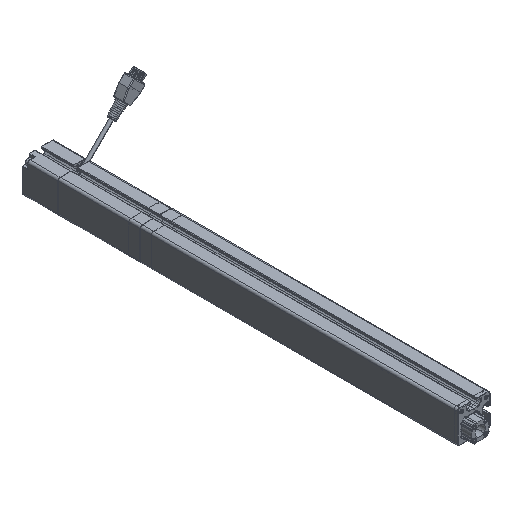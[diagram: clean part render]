
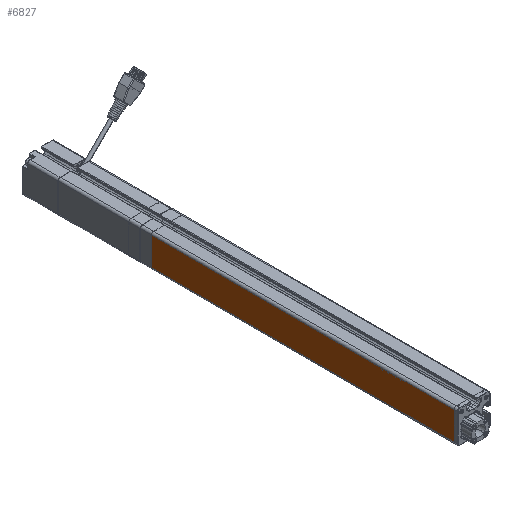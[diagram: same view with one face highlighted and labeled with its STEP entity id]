
A CAD part, isometric view. The second image highlights one B-rep face of the part: STEP entity #6827.
In plain terms, the highlighted planar face has unit normal (-1, 0, 0).
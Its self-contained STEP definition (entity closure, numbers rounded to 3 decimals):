
#2504 = LINE ( 'NONE', #39008, #12276 ) ;
#6827 = ADVANCED_FACE ( 'NONE', ( #44915 ), #45816, .F. ) ;
#6989 = DIRECTION ( 'NONE',  ( 0., 0., -1. ) ) ;
#7872 = LINE ( 'NONE', #69471, #82139 ) ;
#11121 = CARTESIAN_POINT ( 'NONE',  ( -22.5, -19.5, 419. ) ) ;
#12276 = VECTOR ( 'NONE', #18468, 1000. ) ;
#18468 = DIRECTION ( 'NONE',  ( 0., -1., 0. ) ) ;
#19750 = ORIENTED_EDGE ( 'NONE', *, *, #68656, .T. ) ;
#25250 = DIRECTION ( 'NONE',  ( 1., 0., 0. ) ) ;
#30451 = ORIENTED_EDGE ( 'NONE', *, *, #67645, .T. ) ;
#32986 = VECTOR ( 'NONE', #68608, 1000. ) ;
#33056 = LINE ( 'NONE', #88301, #32986 ) ;
#33177 = CARTESIAN_POINT ( 'NONE',  ( -22.5, 19.5, 0. ) ) ;
#39008 = CARTESIAN_POINT ( 'NONE',  ( -22.5, -19.5, 0. ) ) ;
#39789 = EDGE_LOOP ( 'NONE', ( #19750, #59640, #81100, #30451 ) ) ;
#41692 = AXIS2_PLACEMENT_3D ( 'NONE', #11121, #25250, #53109 ) ;
#41726 = CARTESIAN_POINT ( 'NONE',  ( -22.5, -19.5, 419. ) ) ;
#42608 = CARTESIAN_POINT ( 'NONE',  ( -22.5, 19.5, 419. ) ) ;
#44915 = FACE_OUTER_BOUND ( 'NONE', #39789, .T. ) ;
#45816 = PLANE ( 'NONE',  #41692 ) ;
#47657 = VERTEX_POINT ( 'NONE', #33177 ) ;
#53109 = DIRECTION ( 'NONE',  ( 0., 0., -1. ) ) ;
#54731 = EDGE_CURVE ( 'NONE', #70208, #85703, #33056, .T. ) ;
#54821 = VERTEX_POINT ( 'NONE', #42608 ) ;
#56069 = CARTESIAN_POINT ( 'NONE',  ( -22.5, -19.5, 0. ) ) ;
#59640 = ORIENTED_EDGE ( 'NONE', *, *, #54731, .F. ) ;
#67385 = DIRECTION ( 'NONE',  ( 0., -1., 0. ) ) ;
#67645 = EDGE_CURVE ( 'NONE', #54821, #47657, #7872, .T. ) ;
#68608 = DIRECTION ( 'NONE',  ( 0., 0., -1. ) ) ;
#68656 = EDGE_CURVE ( 'NONE', #47657, #85703, #2504, .T. ) ;
#68944 = VECTOR ( 'NONE', #67385, 1000. ) ;
#69471 = CARTESIAN_POINT ( 'NONE',  ( -22.5, 19.5, 419. ) ) ;
#70208 = VERTEX_POINT ( 'NONE', #41726 ) ;
#74696 = LINE ( 'NONE', #76816, #68944 ) ;
#76816 = CARTESIAN_POINT ( 'NONE',  ( -22.5, -19.5, 419. ) ) ;
#81100 = ORIENTED_EDGE ( 'NONE', *, *, #85948, .F. ) ;
#82139 = VECTOR ( 'NONE', #6989, 1000. ) ;
#85703 = VERTEX_POINT ( 'NONE', #56069 ) ;
#85948 = EDGE_CURVE ( 'NONE', #54821, #70208, #74696, .T. ) ;
#88301 = CARTESIAN_POINT ( 'NONE',  ( -22.5, -19.5, 419. ) ) ;
